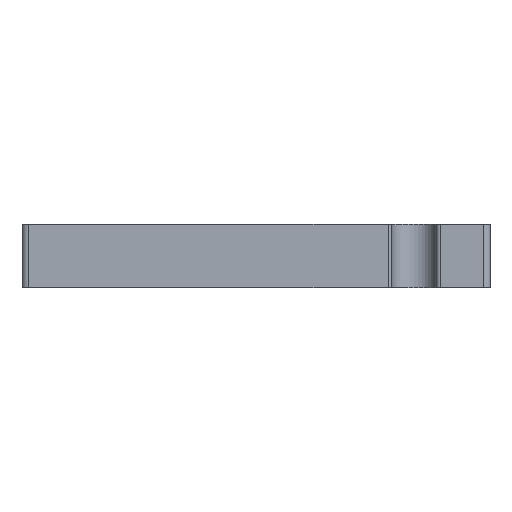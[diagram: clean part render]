
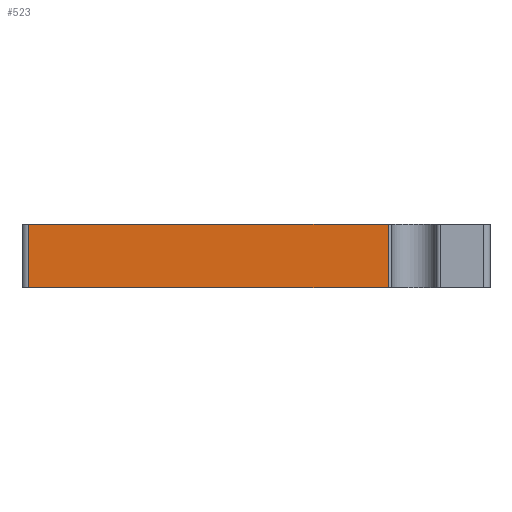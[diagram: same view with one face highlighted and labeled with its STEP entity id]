
A CAD part, front view. The second image highlights one B-rep face of the part: STEP entity #523.
In plain terms, the highlighted planar face has unit normal (0, -1, 0).
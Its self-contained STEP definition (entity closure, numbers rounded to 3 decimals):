
#2 = DIRECTION ( 'NONE',  ( 1., 0., 0. ) ) ;
#5 = VECTOR ( 'NONE', #2, 1000. ) ;
#13 = LINE ( 'NONE', #912, #489 ) ;
#18 = CARTESIAN_POINT ( 'NONE',  ( 24.95, -17.5, 5. ) ) ;
#48 = VERTEX_POINT ( 'NONE', #189 ) ;
#49 = CARTESIAN_POINT ( 'NONE',  ( 24.95, -17.5, 0. ) ) ;
#122 = DIRECTION ( 'NONE',  ( 1., 0., 0. ) ) ;
#125 = VECTOR ( 'NONE', #694, 1000. ) ;
#142 = CARTESIAN_POINT ( 'NONE',  ( 24.95, -17.5, 5. ) ) ;
#189 = CARTESIAN_POINT ( 'NONE',  ( -3.5, -17.5, 5. ) ) ;
#242 = ORIENTED_EDGE ( 'NONE', *, *, #385, .F. ) ;
#259 = LINE ( 'NONE', #754, #5 ) ;
#273 = VERTEX_POINT ( 'NONE', #49 ) ;
#284 = AXIS2_PLACEMENT_3D ( 'NONE', #664, #635, #418 ) ;
#333 = PLANE ( 'NONE',  #284 ) ;
#385 = EDGE_CURVE ( 'NONE', #48, #616, #769, .T. ) ;
#412 = LINE ( 'NONE', #142, #125 ) ;
#418 = DIRECTION ( 'NONE',  ( 0., 0., 1. ) ) ;
#486 = DIRECTION ( 'NONE',  ( 0., 0., -1. ) ) ;
#489 = VECTOR ( 'NONE', #486, 1000. ) ;
#518 = CARTESIAN_POINT ( 'NONE',  ( -3.5, -17.5, 0. ) ) ;
#519 = ORIENTED_EDGE ( 'NONE', *, *, #878, .T. ) ;
#523 = ADVANCED_FACE ( 'NONE', ( #937 ), #333, .F. ) ;
#532 = EDGE_LOOP ( 'NONE', ( #242, #817, #519, #587 ) ) ;
#581 = CARTESIAN_POINT ( 'NONE',  ( -4., -17.5, 5. ) ) ;
#587 = ORIENTED_EDGE ( 'NONE', *, *, #687, .T. ) ;
#616 = VERTEX_POINT ( 'NONE', #18 ) ;
#635 = DIRECTION ( 'NONE',  ( 0., 1., 0. ) ) ;
#664 = CARTESIAN_POINT ( 'NONE',  ( -4., -17.5, 5. ) ) ;
#687 = EDGE_CURVE ( 'NONE', #273, #616, #412, .T. ) ;
#694 = DIRECTION ( 'NONE',  ( 0., 0., 1. ) ) ;
#725 = VERTEX_POINT ( 'NONE', #518 ) ;
#746 = VECTOR ( 'NONE', #122, 1000. ) ;
#754 = CARTESIAN_POINT ( 'NONE',  ( -4., -17.5, 0. ) ) ;
#769 = LINE ( 'NONE', #581, #746 ) ;
#817 = ORIENTED_EDGE ( 'NONE', *, *, #873, .T. ) ;
#873 = EDGE_CURVE ( 'NONE', #48, #725, #13, .T. ) ;
#878 = EDGE_CURVE ( 'NONE', #725, #273, #259, .T. ) ;
#912 = CARTESIAN_POINT ( 'NONE',  ( -3.5, -17.5, 5. ) ) ;
#937 = FACE_OUTER_BOUND ( 'NONE', #532, .T. ) ;
